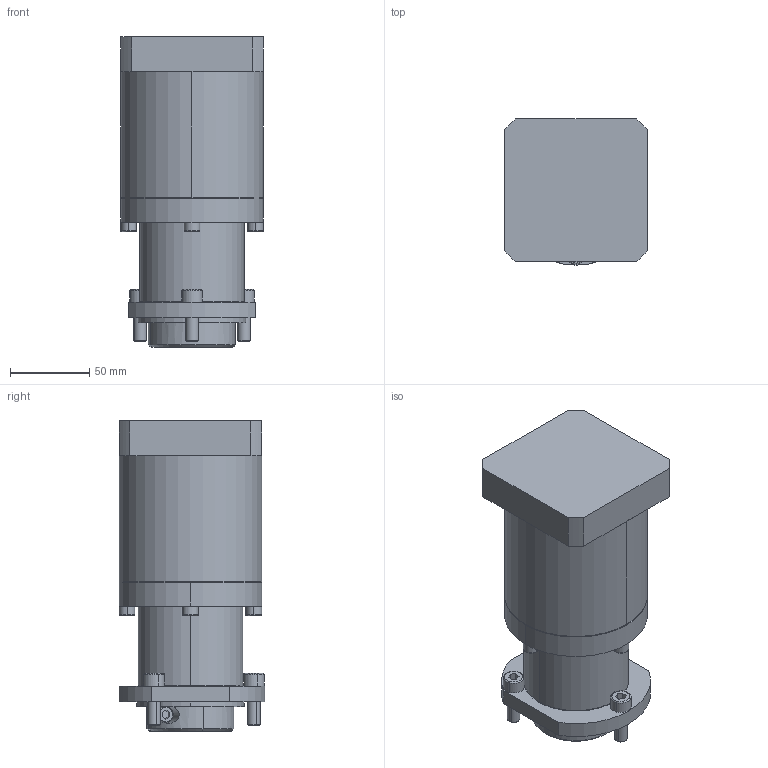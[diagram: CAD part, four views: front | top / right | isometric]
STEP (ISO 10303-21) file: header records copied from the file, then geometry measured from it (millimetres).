
FILE_DESCRIPTION (( 'STEP AP203' ), '1' );
FILE_NAME ('MAF090_MKU090_1_MPG90.STEP', '2013-09-30T13:42:16', ( 'Install' ), ( '' ), 'SwSTEP 2.0', 'SolidWorks 2013', '' );
FILE_SCHEMA (( 'CONFIG_CONTROL_DESIGN' ));
Length unit declared in the file: millimetre
Products named in the file (1): MAF090_MKU090_1_MPG90
Bounding box: 90 x 92 x 196 mm (x, y, z)
Volume: 982589.2 mm3; surface area: 152750.7 mm2
Topology: 15 solids, 18 shells, 571 faces, 1352 edges, 836 vertices
Faces by surface type: cylinder 241, plane 178, cone 104, torus 40, bspline 8
Entity records: 17164 total; most frequent: CARTESIAN_POINT 3697, DIRECTION 3015, ORIENTED_EDGE 2646, EDGE_CURVE 1323, AXIS2_PLACEMENT_3D 1230, VERTEX_POINT 836, CIRCLE 666, EDGE_LOOP 649
